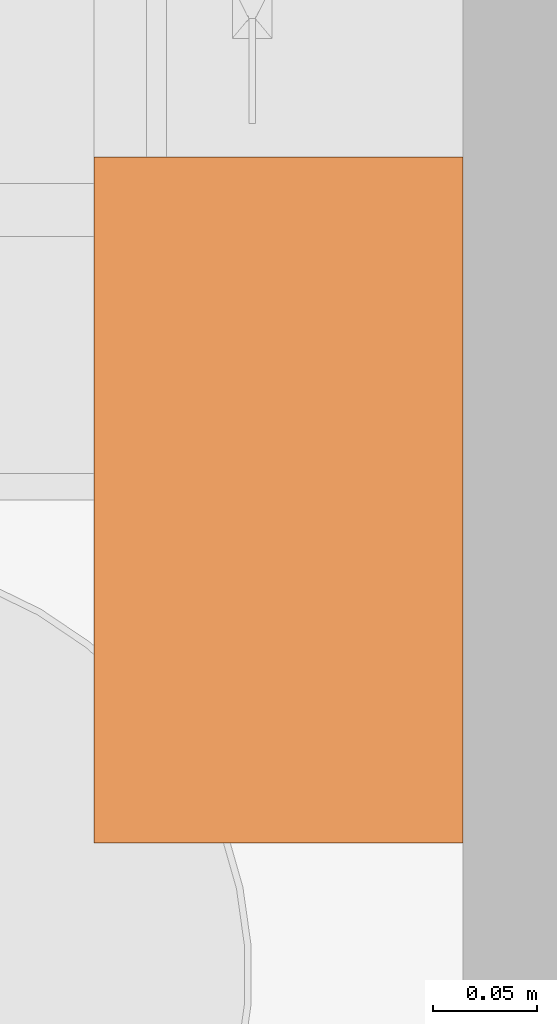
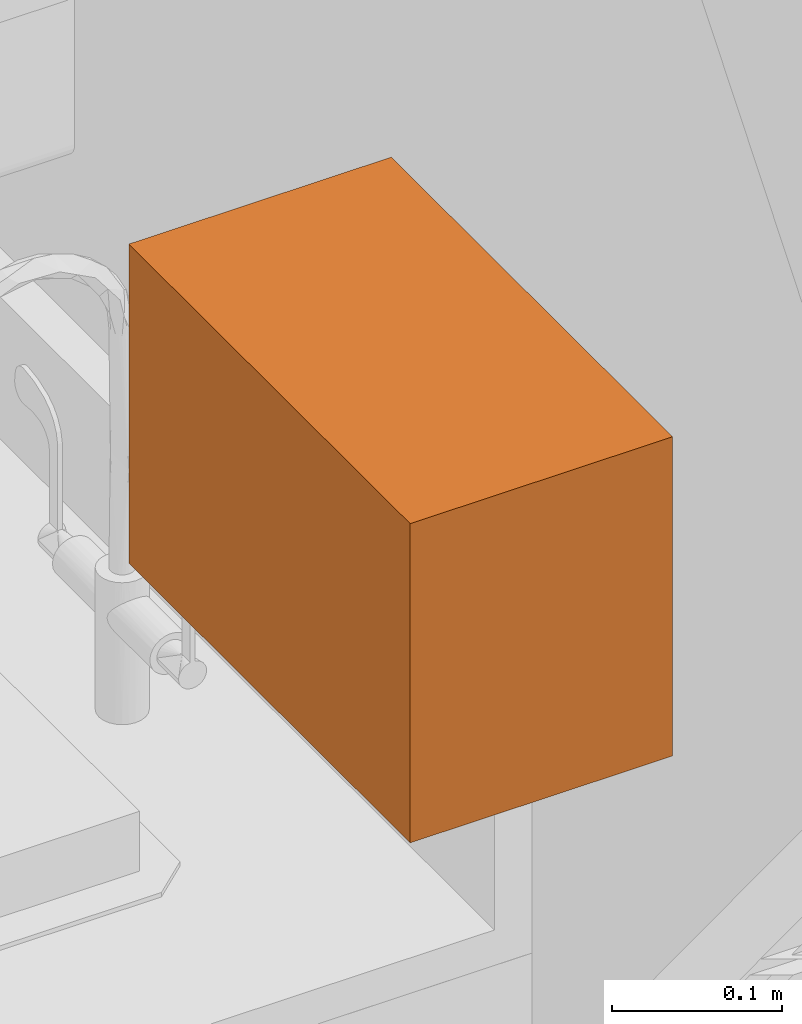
# One storey, part 76 of 142: 1 proxy.
"""IFC2X3 building model written with IfcOpenShell, lengths in feet."""

from ifc_helpers import new_model, entity, si_unit, converted_unit, derived_unit, direction, frame, frame_2d, origin, place, context, subcontext, project, spatial, rectangle, extrude, source, transform, mapped, type_object, type_shapes, element, save


model = new_model("IFC2X3")

# Units and contexts
model_context = context("Model", 3, precision=0.0001, world=origin(), true_north=direction((6.12303176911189e-17, 1.0)))
body_context = subcontext(model_context, "Body", "Model", "MODEL_VIEW")
ifc_project = project(units=[converted_unit("LENGTHUNIT", "FOOT", entity("IfcRatioMeasure", 0.3048), si_unit("LENGTHUNIT", "METRE"), dimensions=[1, 0, 0, 0, 0, 0, 0]), converted_unit("AREAUNIT", "SQUARE FOOT", entity("IfcRatioMeasure", 0.09290304), si_unit("AREAUNIT", "SQUARE_METRE"), dimensions=[2, 0, 0, 0, 0, 0, 0]), converted_unit("VOLUMEUNIT", "CUBIC FOOT", entity("IfcRatioMeasure", 0.028316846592), si_unit("VOLUMEUNIT", "CUBIC_METRE"), dimensions=[3, 0, 0, 0, 0, 0, 0]), converted_unit("PLANEANGLEUNIT", "DEGREE", entity("IfcRatioMeasure", 0.0174532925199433), si_unit("PLANEANGLEUNIT", "RADIAN"), dimensions=[0, 0, 0, 0, 0, 0, 0]), si_unit("MASSUNIT", "GRAM", prefix="KILO"), derived_unit("MASSDENSITYUNIT", [(si_unit("MASSUNIT", "GRAM", prefix="KILO"), 1), (si_unit("LENGTHUNIT", "METRE"), -3)]), si_unit("TIMEUNIT", "SECOND"), si_unit("FREQUENCYUNIT", "HERTZ"), si_unit("THERMODYNAMICTEMPERATUREUNIT", "DEGREE_CELSIUS"), derived_unit("THERMALTRANSMITTANCEUNIT", [(si_unit("MASSUNIT", "GRAM", prefix="KILO"), 1), (si_unit("THERMODYNAMICTEMPERATUREUNIT", "KELVIN"), -1), (si_unit("TIMEUNIT", "SECOND"), -3)]), derived_unit("VOLUMETRICFLOWRATEUNIT", [(si_unit("LENGTHUNIT", "METRE"), 3), (si_unit("TIMEUNIT", "SECOND"), -1)]), si_unit("ELECTRICCURRENTUNIT", "AMPERE"), si_unit("ELECTRICVOLTAGEUNIT", "VOLT"), si_unit("POWERUNIT", "WATT"), si_unit("FORCEUNIT", "NEWTON"), si_unit("ILLUMINANCEUNIT", "LUX"), si_unit("LUMINOUSFLUXUNIT", "LUMEN"), si_unit("LUMINOUSINTENSITYUNIT", "CANDELA"), derived_unit("USERDEFINED", [(si_unit("MASSUNIT", "GRAM", prefix="KILO"), -1), (si_unit("LENGTHUNIT", "METRE"), -2), (si_unit("TIMEUNIT", "SECOND"), 3), (si_unit("LUMINOUSFLUXUNIT", "LUMEN"), 1)]), derived_unit("LINEARVELOCITYUNIT", [(si_unit("LENGTHUNIT", "METRE"), 1), (si_unit("TIMEUNIT", "SECOND"), -1)]), si_unit("PRESSUREUNIT", "PASCAL"), derived_unit("USERDEFINED", [(si_unit("LENGTHUNIT", "METRE"), -2), (si_unit("MASSUNIT", "GRAM", prefix="KILO"), 1), (si_unit("TIMEUNIT", "SECOND"), -2)])], contexts=[model_context])

# Site, building, storey, space
site_placement = place(None, origin())
site = spatial("IfcSite", under=ifc_project, at=site_placement, Name="Default", CompositionType="ELEMENT")
building_placement = place(site_placement, origin())
building = spatial("IfcBuilding", under=site, at=building_placement, Name="OUTPATIENT / PACT CLINIC (Ch. 265)", CompositionType="ELEMENT")
storey_placement = place(building_placement, origin())
storey = spatial("IfcBuildingStorey", under=building, at=storey_placement, Name="LEVEL 1", CompositionType="ELEMENT", Elevation=0.0)
space_placement = place(storey_placement, origin())
space = spatial("IfcSpace", under=storey, at=space_placement, Name="TRPR1", CompositionType="ELEMENT", InteriorOrExteriorSpace="INTERNAL")

# Proxy
building_element_proxy_type = type_object("IfcBuildingElementProxyType", Name="A5080 - Dispenser, Paper Towel", PredefinedType="NOTDEFINED")
shared_shape = source(origin(), body_context, "Body", "SweptSolid", [
    extrude(rectangle(XDim=1.08333333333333, YDim=0.58333333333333, at=frame_2d((0.0, 9.99200722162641e-16), x_axis=(1.0, 0.0))), frame((0.0, 0.291666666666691, 0.0), z_axis=(0.0, 0.0, 1.0), x_axis=(-1.0, 0.0, 0.0)), (0.0, 0.0, 1.0), 0.75),
])
type_shapes(building_element_proxy_type, [shared_shape])
proxy_placement = place(space_placement, frame((403.463309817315, -936.045518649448, 3.5), z_axis=(0.0, 0.0, 1.0), x_axis=(0.0, 1.0, 0.0)))
element("IfcBuildingElementProxy", 1, at=proxy_placement, inside=space, type_object=building_element_proxy_type, Name="A5080 - Dispenser, Paper Towel:A5080 - Dispenser, Paper Towel", ObjectType="A5080 - Dispenser, Paper Towel", context=body_context, shape_type="MappedRepresentation", body=[
    mapped(shared_shape, transform((0.0, 0.0, 0.0), scale=1.0)),
])

save(model, "model.ifc")
